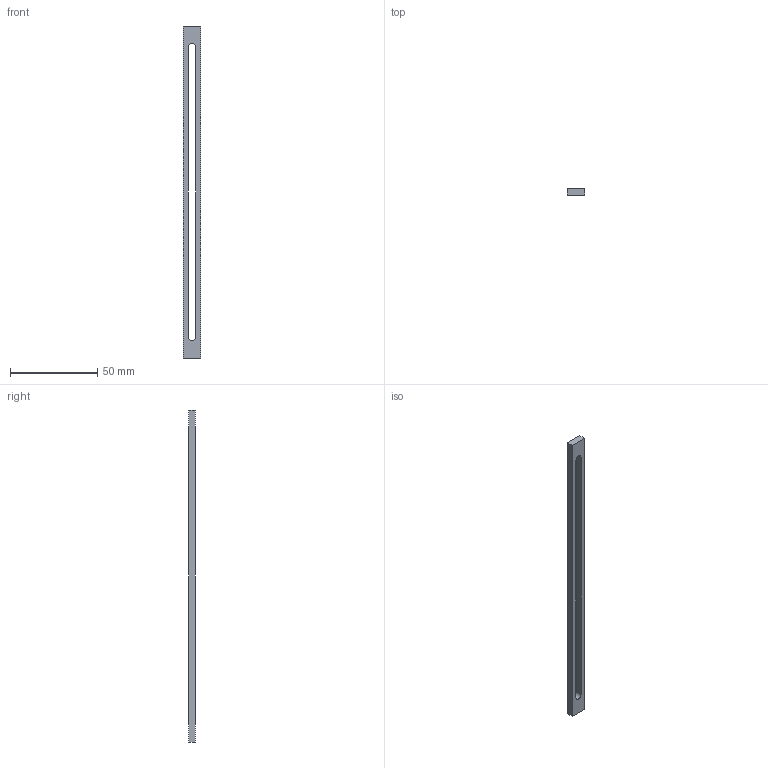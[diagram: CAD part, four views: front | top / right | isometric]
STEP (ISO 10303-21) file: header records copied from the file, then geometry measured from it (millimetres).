
FILE_DESCRIPTION(('Open CASCADE Model'),'2;1');
FILE_NAME('Open CASCADE Shape Model','2026-11-08T07:33:07',('Author'),( 'Open CASCADE'),'Open CASCADE STEP processor 7.8','Open CASCADE 7.8' ,'Unknown');
FILE_SCHEMA(('AUTOMOTIVE_DESIGN { 1 0 10303 214 1 1 1 1 }'));
Length unit declared in the file: millimetre
Products named in the file (1): Open CASCADE STEP translator 7.8 5
Bounding box: 10 x 4 x 190 mm (x, y, z)
Volume: 4755.8 mm3; surface area: 5358.7 mm2
Topology: 1 solids, 1 shells, 10 faces, 24 edges, 16 vertices
Faces by surface type: plane 8, cylinder 2
Entity records: 618 total; most frequent: CARTESIAN_POINT 99, DIRECTION 98, LINE 64, VECTOR 64, ORIENTED_EDGE 48, PCURVE 48, DEFINITIONAL_REPRESENTATION 48, EDGE_CURVE 24
